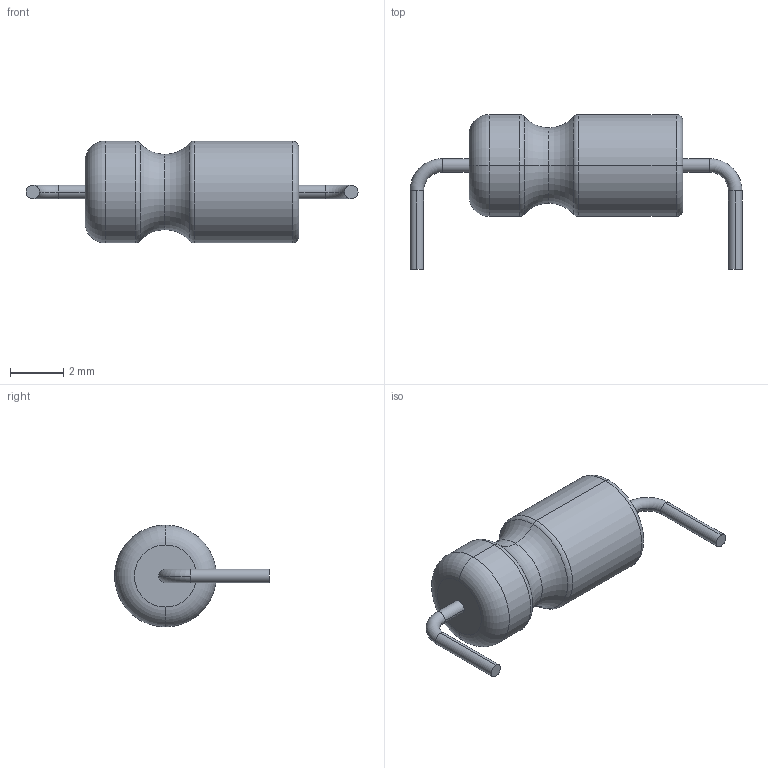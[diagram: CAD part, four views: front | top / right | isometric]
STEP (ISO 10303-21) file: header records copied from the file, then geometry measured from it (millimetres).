
FILE_DESCRIPTION (( 'STEP AP214' ), '1' );
FILE_NAME ( 'CAPPAD1200W51L805D384.STEP', '2021-10-06T06:49:12', ( '' ), ( '' ), '', '©2017 PCB Libraries, Inc.', '' );
FILE_SCHEMA (( 'AUTOMOTIVE_DESIGN' ));
Length unit declared in the file: millimetre
Products named in the file (1): CAPPAD1200W51L805D384
Bounding box: 12.51 x 5.84 x 3.84 mm (x, y, z)
Volume: 86.4 mm3; surface area: 131.9 mm2
Topology: 3 solids, 3 shells, 34 faces, 66 edges, 38 vertices
Faces by surface type: torus 16, cylinder 12, plane 6
Entity records: 1030 total; most frequent: DIRECTION 190, CARTESIAN_POINT 139, ORIENTED_EDGE 132, AXIS2_PLACEMENT_3D 89, EDGE_CURVE 66, CIRCLE 54, VERTEX_POINT 38, STYLED_ITEM 38
